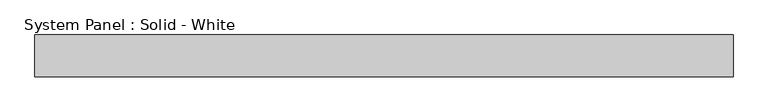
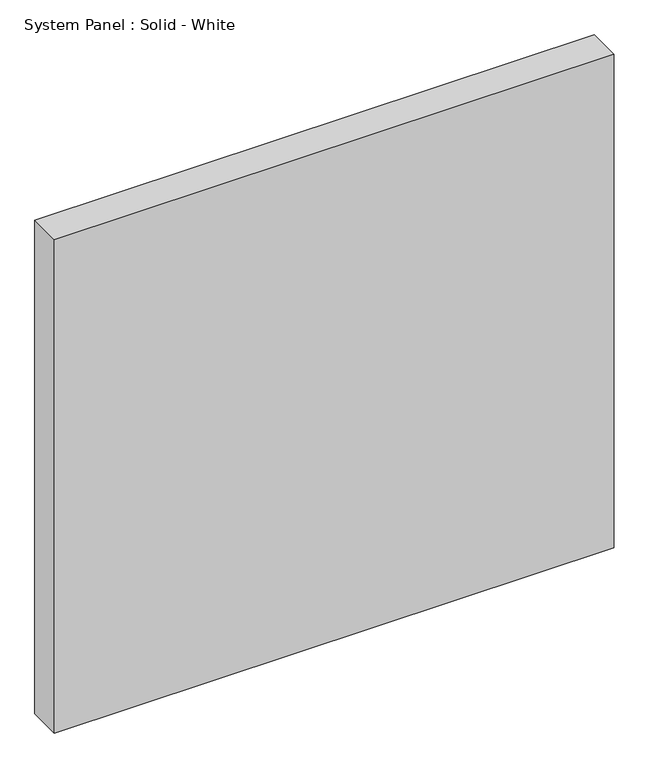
"""IFC4 building model written with IfcOpenShell, lengths in millimetres: plate geometry, System Panel : Solid - White."""

from ifc_helpers import new_model, si_unit, origin, origin_with_axes, place, context, project, spatial, polyline, outline, extrude, source, transform, mapped, element, save


def system_panel_solid_white_9f51102d(model_context):
    return source(origin(), model_context, "Body", "SweptSolid", [
        extrude(outline(polyline([(528.4107143, -19.05), (-528.4107143, -19.05), (-528.4107143, 44.45), (528.4107143, 44.45), (528.4107143, -19.05)])), origin_with_axes(), (0.0, 0.0, 1.0), 984.3895219),
    ])


if __name__ == "__main__":
    model = new_model("IFC4")
    model_context = context("Model", 3, world=origin())
    ifc_project = project(units=[si_unit("LENGTHUNIT", "METRE", prefix="MILLI")], contexts=[model_context])
    site = spatial("IfcSite", under=ifc_project)
    building = spatial("IfcBuilding", under=site)
    placement = place(None, origin())
    system_panel_solid_white_shape = system_panel_solid_white_9f51102d(model_context)
    element("IfcPlate", 1, ObjectType="System Panel : Solid - White", at=placement, inside=building, context=model_context, shape_type="MappedRepresentation", body=[
        mapped(system_panel_solid_white_shape, transform((0.0, 0.0, 0.0), x_axis=(1.0, 0.0, 0.0), y_axis=(0.0, 1.0, 0.0), z_axis=(0.0, 0.0, 1.0))),
    ])
    save(model, "model.ifc")
